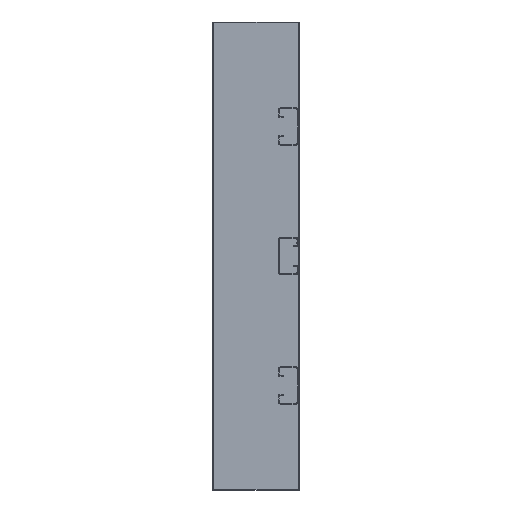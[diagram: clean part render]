
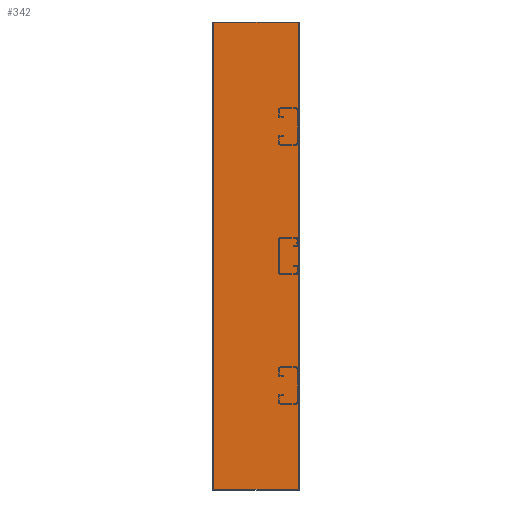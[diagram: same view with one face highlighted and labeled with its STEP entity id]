
A CAD part, left-side view. The second image highlights one B-rep face of the part: STEP entity #342.
In plain terms, the highlighted planar face has unit normal (-1, 0, 0).
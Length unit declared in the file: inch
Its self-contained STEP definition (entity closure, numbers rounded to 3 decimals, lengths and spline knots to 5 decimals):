
#29=DIRECTION('',(0.,1.,0.));
#30=VECTOR('',#29,4.03);
#31=CARTESIAN_POINT('',(-0.075,0.08,0.));
#32=LINE('',#31,#30);
#73=DIRECTION('',(0.,0.,-1.));
#74=VECTOR('',#73,22.3487);
#75=CARTESIAN_POINT('',(-0.075,4.11,0.));
#76=LINE('',#75,#74);
#85=DIRECTION('',(0.,0.,-1.));
#86=VECTOR('',#85,22.3487);
#87=CARTESIAN_POINT('',(-0.075,0.08,0.));
#88=LINE('',#87,#86);
#97=DIRECTION('',(0.,1.,0.));
#98=VECTOR('',#97,4.03);
#99=CARTESIAN_POINT('',(-0.075,0.08,-22.3487));
#100=LINE('',#99,#98);
#173=CARTESIAN_POINT('',(-0.075,0.08,0.));
#174=VERTEX_POINT('',#173);
#175=CARTESIAN_POINT('',(-0.075,4.11,0.));
#176=VERTEX_POINT('',#175);
#181=CARTESIAN_POINT('',(-0.075,0.08,-22.3487));
#182=CARTESIAN_POINT('',(-0.075,4.11,-22.3487));
#183=VERTEX_POINT('',#181);
#184=VERTEX_POINT('',#182);
#329=CARTESIAN_POINT('',(-0.075,0.08,0.));
#330=DIRECTION('',(-1.,0.,0.));
#331=DIRECTION('',(0.,1.,0.));
#332=AXIS2_PLACEMENT_3D('',#329,#330,#331);
#333=PLANE('',#332);
#334=ORIENTED_EDGE('',*,*,#232,.F.);
#336=ORIENTED_EDGE('',*,*,#335,.T.);
#338=ORIENTED_EDGE('',*,*,#337,.T.);
#339=ORIENTED_EDGE('',*,*,#321,.F.);
#340=EDGE_LOOP('',(#334,#336,#338,#339));
#341=FACE_OUTER_BOUND('',#340,.F.);
#342=ADVANCED_FACE('',(#341),#333,.T.);
#232=EDGE_CURVE('',#174,#176,#32,.T.);
#321=EDGE_CURVE('',#176,#184,#76,.T.);
#335=EDGE_CURVE('',#174,#183,#88,.T.);
#337=EDGE_CURVE('',#183,#184,#100,.T.);
